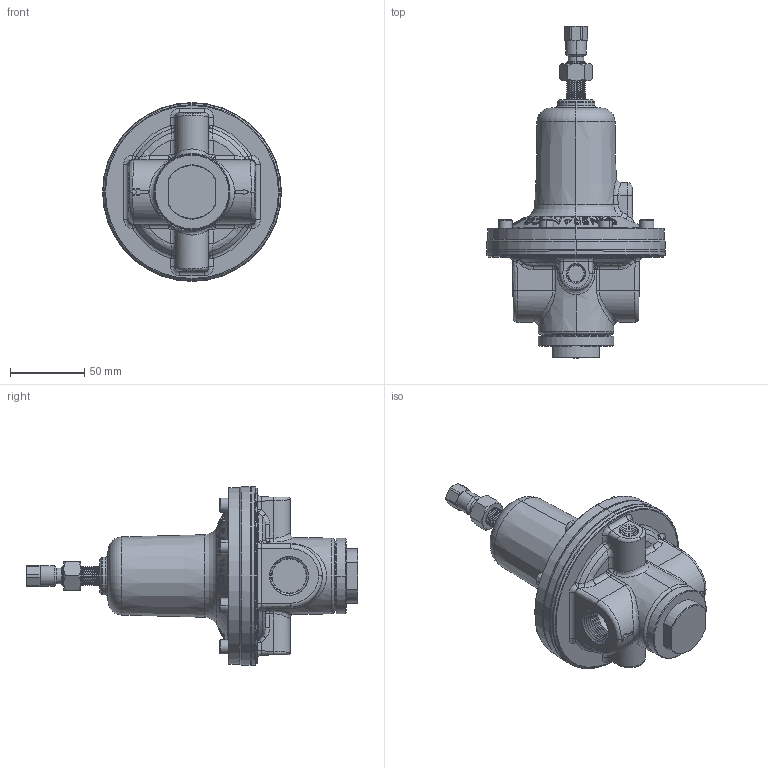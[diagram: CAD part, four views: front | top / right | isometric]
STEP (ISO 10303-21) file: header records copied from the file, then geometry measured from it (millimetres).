
FILE_DESCRIPTION (( 'STEP AP203' ), '1' );
FILE_NAME ('4GDR-750B.STEP', '2013-03-14T12:12:52', ( '' ), ( '' ), 'SwSTEP 2.0', 'SolidWorks 2011', '' );
FILE_SCHEMA (( 'CONFIG_CONTROL_DESIGN' ));
Length unit declared in the file: inch
Products named in the file (2): 4GDR-750B; Part1^4GDR-750B_CM
Assembly tree (1 placements, depth 2):
  4GDR-750B
    Part1^4GDR-750B_CM
Bounding box: 120.14 x 223.04 x 120.14 mm (x, y, z)
Volume: 647290.2 mm3; surface area: 68658.8 mm2
Topology: 1 solids, 9 shells, 1184 faces, 2723 edges, 1565 vertices
Faces by surface type: cone 431, plane 341, cylinder 184, bspline 158, torus 43, sphere 27
Entity records: 42061 total; most frequent: CARTESIAN_POINT 17040, ORIENTED_EDGE 5380, DIRECTION 4821, EDGE_CURVE 2690, AXIS2_PLACEMENT_3D 1880, VERTEX_POINT 1565, EDGE_LOOP 1241, FACE_OUTER_BOUND 1184
